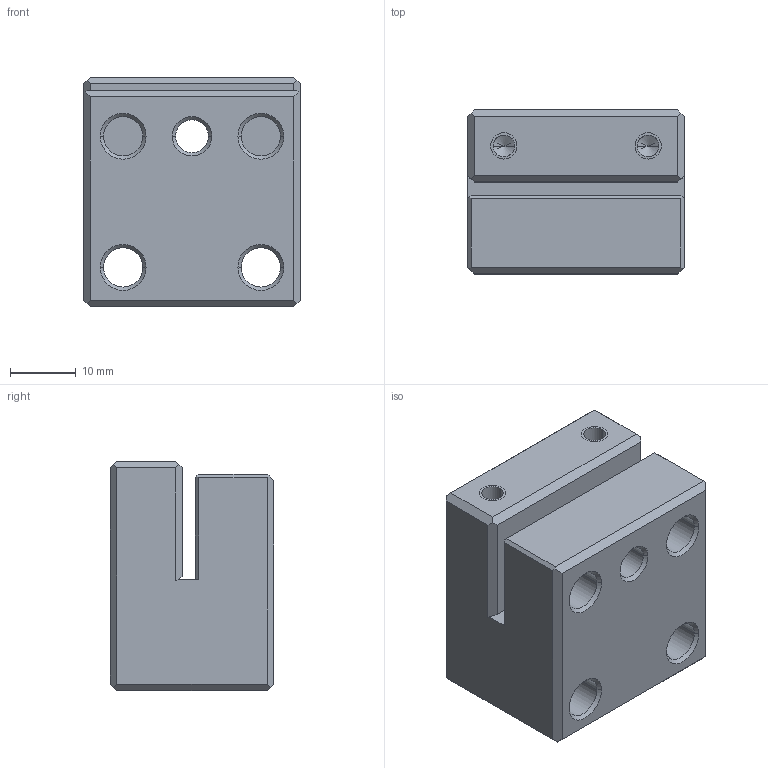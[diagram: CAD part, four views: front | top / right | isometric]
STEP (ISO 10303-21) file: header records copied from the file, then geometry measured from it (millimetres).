
FILE_DESCRIPTION((''),'2;1');
FILE_NAME('FG_WH_WEDCL_OSTJ1NP001','2026-06-12T10:44:33',('Admin'),(''),'CREO PARAMETRIC BY PTC INC, 2025010','CREO PARAMETRIC BY PTC INC, 2025010','');
FILE_SCHEMA(('CONFIG_CONTROL_DESIGN'));
Length unit declared in the file: metre
Products named in the file (1): FG_WH_WEDCL_OSTJ1NP001
Bounding box: 33 x 25 x 35 mm (x, y, z)
Volume: 22484.2 mm3; surface area: 8756.9 mm2
Topology: 1 solids, 4 shells, 108 faces, 309 edges, 206 vertices
Faces by surface type: plane 48, cylinder 34, cone 24, torus 2
Entity records: 3675 total; most frequent: CARTESIAN_POINT 676, DIRECTION 651, ORIENTED_EDGE 598, EDGE_CURVE 305, AXIS2_PLACEMENT_3D 241, VERTEX_POINT 206, VECTOR 169, LINE 169
